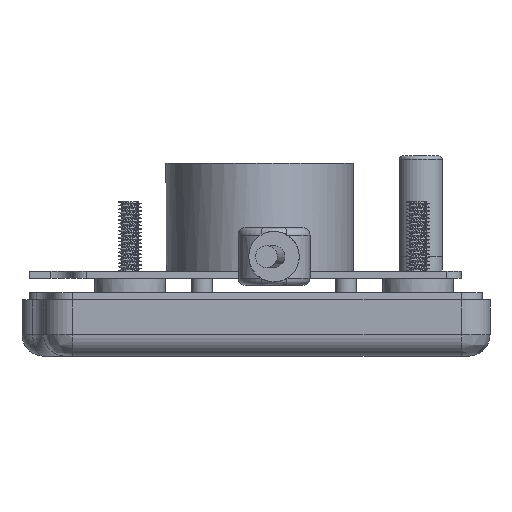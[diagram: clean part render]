
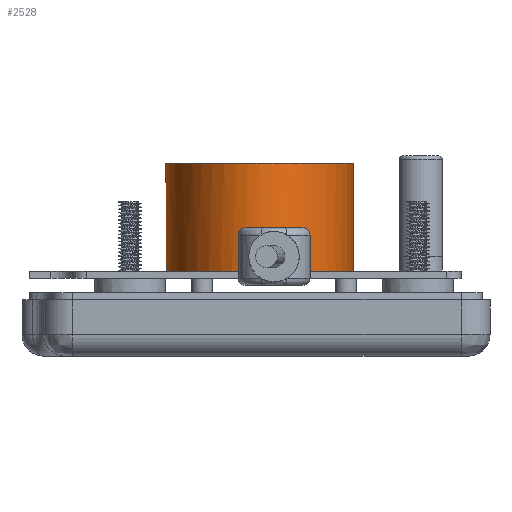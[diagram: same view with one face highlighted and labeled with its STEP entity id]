
A CAD part, front view. The second image highlights one B-rep face of the part: STEP entity #2528.
In plain terms, the highlighted free-form (B-spline) face has degree [3, 1] with [34, 2] control points.
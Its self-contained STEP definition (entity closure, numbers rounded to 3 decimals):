
#930=B_SPLINE_SURFACE_WITH_KNOTS('',3,1,((#54221,#54222),(#54223,#54224),
(#54225,#54226),(#54227,#54228),(#54229,#54230),(#54231,#54232),(#54233,
#54234),(#54235,#54236),(#54237,#54238),(#54239,#54240),(#54241,#54242),
(#54243,#54244),(#54245,#54246),(#54247,#54248),(#54249,#54250),(#54251,
#54252),(#54253,#54254),(#54255,#54256),(#54257,#54258),(#54259,#54260),
(#54261,#54262),(#54263,#54264),(#54265,#54266),(#54267,#54268),(#54269,
#54270),(#54271,#54272),(#54273,#54274),(#54275,#54276),(#54277,#54278),
(#54279,#54280),(#54281,#54282),(#54283,#54284),(#54285,#54286),(#54287,
#54288)),.UNSPECIFIED.,.T.,.F.,.F.,(2,2,2,2,2,2,2,2,2,2,2,2,2,2,2,2,2,2,
2),(2,2),(-0.063,0.,0.063,0.125,0.188,0.25,0.313,0.375,
0.438,0.5,0.563,0.625,0.688,0.75,0.813,0.875,0.938,1.,1.063),(0.,
1.),.UNSPECIFIED.);
#1282=B_SPLINE_CURVE_WITH_KNOTS('',3,(#53933,#53934,#53935,#53936,#53937,
#53938,#53939,#53940,#53941,#53942,#53943,#53944,#53945,#53946,#53947,#53948,
#53949,#53950,#53951,#53952,#53953,#53954,#53955,#53956,#53957,#53958,#53959,
#53960),.UNSPECIFIED.,.T.,.F.,(2,2,2,2,2,2,2,2,2,2,2,2,2,2,2,2),(-0.063,
0.,0.063,0.125,0.25,0.313,0.375,0.438,0.5,0.563,0.625,0.75,0.875,0.938,
1.,1.063),.UNSPECIFIED.);
#1322=B_SPLINE_CURVE_WITH_KNOTS('',3,(#54194,#54195,#54196,#54197,#54198,
#54199,#54200,#54201,#54202,#54203,#54204,#54205,#54206,#54207,#54208,#54209,
#54210,#54211,#54212,#54213,#54214,#54215,#54216,#54217,#54218,#54219),
 .UNSPECIFIED.,.T.,.F.,(2,2,2,2,2,2,2,2,2,2,2,2,2,2,2),(-0.063,
0.,0.062,0.125,0.25,0.375,0.438,0.5,0.563,0.625,0.75,0.875,
0.938,1.,1.063),.UNSPECIFIED.);
#2528=ADVANCED_FACE('',(#3269,#3270),#930,.T.);
#3269=FACE_BOUND('',#3974,.T.);
#3270=FACE_BOUND('',#3975,.T.);
#3974=EDGE_LOOP('',(#7186));
#3975=EDGE_LOOP('',(#7187));
#7186=ORIENTED_EDGE('',*,*,#10233,.F.);
#7187=ORIENTED_EDGE('',*,*,#10274,.T.);
#8749=VERTEX_POINT('',#53961);
#8790=VERTEX_POINT('',#54220);
#10233=EDGE_CURVE('',#8749,#8749,#1282,.T.);
#10274=EDGE_CURVE('',#8790,#8790,#1322,.T.);
#53933=CARTESIAN_POINT('',(-3.787,18.041,19.));
#53934=CARTESIAN_POINT('',(-7.607,16.453,19.));
#53935=CARTESIAN_POINT('',(-9.211,15.135,19.));
#53936=CARTESIAN_POINT('',(-11.814,12.002,19.));
#53937=CARTESIAN_POINT('',(-12.812,10.182,19.));
#53938=CARTESIAN_POINT('',(-14.961,4.486,19.));
#53939=CARTESIAN_POINT('',(-15.339,0.319,19.));
#53940=CARTESIAN_POINT('',(-14.405,-5.741,19.));
#53941=CARTESIAN_POINT('',(-13.844,-7.697,19.));
#53942=CARTESIAN_POINT('',(-12.174,-11.372,19.));
#53943=CARTESIAN_POINT('',(-11.04,-13.128,19.));
#53944=CARTESIAN_POINT('',(-8.157,-16.018,19.));
#53945=CARTESIAN_POINT('',(-6.356,-17.174,19.));
#53946=CARTESIAN_POINT('',(-2.416,-18.206,19.));
#53947=CARTESIAN_POINT('',(-0.28,-18.053,19.));
#53948=CARTESIAN_POINT('',(3.542,-16.495,19.));
#53949=CARTESIAN_POINT('',(5.175,-15.168,19.));
#53950=CARTESIAN_POINT('',(7.789,-12.041,19.));
#53951=CARTESIAN_POINT('',(8.793,-10.221,19.));
#53952=CARTESIAN_POINT('',(10.957,-4.518,19.));
#53953=CARTESIAN_POINT('',(11.334,-0.275,19.));
#53954=CARTESIAN_POINT('',(10.097,7.733,19.));
#53955=CARTESIAN_POINT('',(8.454,11.732,19.));
#53956=CARTESIAN_POINT('',(4.115,16.05,19.));
#53957=CARTESIAN_POINT('',(2.339,17.189,19.));
#53958=CARTESIAN_POINT('',(-1.669,18.217,19.));
#53959=CARTESIAN_POINT('',(-3.787,18.041,19.));
#53960=CARTESIAN_POINT('',(-7.607,16.453,19.));
#53961=CARTESIAN_POINT('',(-5.697,17.247,19.));
#54194=CARTESIAN_POINT('',(-1.23,18.196,4.));
#54195=CARTESIAN_POINT('',(-5.326,17.627,4.));
#54196=CARTESIAN_POINT('',(-7.202,16.67,4.));
#54197=CARTESIAN_POINT('',(-10.324,14.02,4.));
#54198=CARTESIAN_POINT('',(-11.557,12.367,4.));
#54199=CARTESIAN_POINT('',(-14.423,6.916,4.));
#54200=CARTESIAN_POINT('',(-15.176,2.794,4.));
#54201=CARTESIAN_POINT('',(-14.76,-5.316,4.));
#54202=CARTESIAN_POINT('',(-13.579,-9.378,4.));
#54203=CARTESIAN_POINT('',(-10.,-14.344,4.));
#54204=CARTESIAN_POINT('',(-8.486,-15.8,4.));
#54205=CARTESIAN_POINT('',(-4.893,-17.745,4.));
#54206=CARTESIAN_POINT('',(-2.773,-18.189,4.));
#54207=CARTESIAN_POINT('',(1.269,-17.642,4.));
#54208=CARTESIAN_POINT('',(3.197,-16.672,4.));
#54209=CARTESIAN_POINT('',(6.307,-14.036,4.));
#54210=CARTESIAN_POINT('',(7.559,-12.36,4.));
#54211=CARTESIAN_POINT('',(10.398,-6.97,4.));
#54212=CARTESIAN_POINT('',(11.176,-2.808,4.));
#54213=CARTESIAN_POINT('',(10.759,5.331,4.));
#54214=CARTESIAN_POINT('',(9.586,9.374,4.));
#54215=CARTESIAN_POINT('',(5.983,14.364,4.));
#54216=CARTESIAN_POINT('',(4.465,15.817,4.));
#54217=CARTESIAN_POINT('',(0.868,17.753,4.));
#54218=CARTESIAN_POINT('',(-1.23,18.196,4.));
#54219=CARTESIAN_POINT('',(-5.326,17.627,4.));
#54220=CARTESIAN_POINT('',(-3.278,17.912,4.));
#54221=CARTESIAN_POINT('',(-3.614,18.,19.));
#54222=CARTESIAN_POINT('',(-3.614,18.,4.));
#54223=CARTESIAN_POINT('',(-0.386,18.,19.));
#54224=CARTESIAN_POINT('',(-0.386,18.,4.));
#54225=CARTESIAN_POINT('',(1.234,17.577,19.));
#54226=CARTESIAN_POINT('',(1.234,17.577,4.));
#54227=CARTESIAN_POINT('',(4.313,15.876,19.));
#54228=CARTESIAN_POINT('',(4.313,15.876,4.));
#54229=CARTESIAN_POINT('',(5.769,14.592,19.));
#54230=CARTESIAN_POINT('',(5.769,14.592,4.));
#54231=CARTESIAN_POINT('',(8.244,11.292,19.));
#54232=CARTESIAN_POINT('',(8.244,11.292,4.));
#54233=CARTESIAN_POINT('',(9.259,9.279,19.));
#54234=CARTESIAN_POINT('',(9.259,9.279,4.));
#54235=CARTESIAN_POINT('',(10.637,4.842,19.));
#54236=CARTESIAN_POINT('',(10.637,4.842,4.));
#54237=CARTESIAN_POINT('',(11.,2.422,19.));
#54238=CARTESIAN_POINT('',(11.,2.422,4.));
#54239=CARTESIAN_POINT('',(11.,-2.422,19.));
#54240=CARTESIAN_POINT('',(11.,-2.422,4.));
#54241=CARTESIAN_POINT('',(10.637,-4.842,19.));
#54242=CARTESIAN_POINT('',(10.637,-4.842,4.));
#54243=CARTESIAN_POINT('',(9.259,-9.279,19.));
#54244=CARTESIAN_POINT('',(9.259,-9.279,4.));
#54245=CARTESIAN_POINT('',(8.244,-11.292,19.));
#54246=CARTESIAN_POINT('',(8.244,-11.292,4.));
#54247=CARTESIAN_POINT('',(5.769,-14.592,19.));
#54248=CARTESIAN_POINT('',(5.769,-14.592,4.));
#54249=CARTESIAN_POINT('',(4.313,-15.876,19.));
#54250=CARTESIAN_POINT('',(4.313,-15.876,4.));
#54251=CARTESIAN_POINT('',(1.234,-17.577,19.));
#54252=CARTESIAN_POINT('',(1.234,-17.577,4.));
#54253=CARTESIAN_POINT('',(-0.386,-18.,19.));
#54254=CARTESIAN_POINT('',(-0.386,-18.,4.));
#54255=CARTESIAN_POINT('',(-3.614,-18.,19.));
#54256=CARTESIAN_POINT('',(-3.614,-18.,4.));
#54257=CARTESIAN_POINT('',(-5.234,-17.577,19.));
#54258=CARTESIAN_POINT('',(-5.234,-17.577,4.));
#54259=CARTESIAN_POINT('',(-8.313,-15.876,19.));
#54260=CARTESIAN_POINT('',(-8.313,-15.876,4.));
#54261=CARTESIAN_POINT('',(-9.769,-14.592,19.));
#54262=CARTESIAN_POINT('',(-9.769,-14.592,4.));
#54263=CARTESIAN_POINT('',(-12.244,-11.292,19.));
#54264=CARTESIAN_POINT('',(-12.244,-11.292,4.));
#54265=CARTESIAN_POINT('',(-13.259,-9.279,19.));
#54266=CARTESIAN_POINT('',(-13.259,-9.279,4.));
#54267=CARTESIAN_POINT('',(-14.637,-4.842,19.));
#54268=CARTESIAN_POINT('',(-14.637,-4.842,4.));
#54269=CARTESIAN_POINT('',(-15.,-2.422,19.));
#54270=CARTESIAN_POINT('',(-15.,-2.422,4.));
#54271=CARTESIAN_POINT('',(-15.,2.422,19.));
#54272=CARTESIAN_POINT('',(-15.,2.422,4.));
#54273=CARTESIAN_POINT('',(-14.637,4.842,19.));
#54274=CARTESIAN_POINT('',(-14.637,4.842,4.));
#54275=CARTESIAN_POINT('',(-13.259,9.279,19.));
#54276=CARTESIAN_POINT('',(-13.259,9.279,4.));
#54277=CARTESIAN_POINT('',(-12.244,11.292,19.));
#54278=CARTESIAN_POINT('',(-12.244,11.292,4.));
#54279=CARTESIAN_POINT('',(-9.769,14.592,19.));
#54280=CARTESIAN_POINT('',(-9.769,14.592,4.));
#54281=CARTESIAN_POINT('',(-8.313,15.876,19.));
#54282=CARTESIAN_POINT('',(-8.313,15.876,4.));
#54283=CARTESIAN_POINT('',(-5.234,17.577,19.));
#54284=CARTESIAN_POINT('',(-5.234,17.577,4.));
#54285=CARTESIAN_POINT('',(-3.614,18.,19.));
#54286=CARTESIAN_POINT('',(-3.614,18.,4.));
#54287=CARTESIAN_POINT('',(-0.386,18.,19.));
#54288=CARTESIAN_POINT('',(-0.386,18.,4.));
